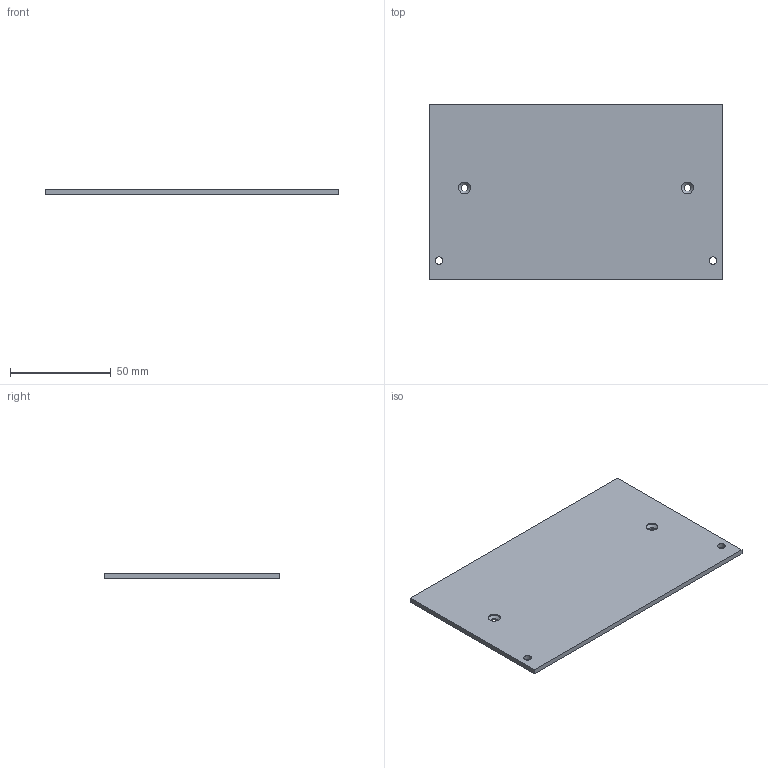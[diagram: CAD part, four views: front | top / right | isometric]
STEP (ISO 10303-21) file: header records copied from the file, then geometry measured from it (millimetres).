
FILE_DESCRIPTION(/* description */ ('BLIND PLATE 2U','CAx-IF Rec.Pracs.---Representation and Presentation of Product Manufacturing Information (PMI)---4.0---2014-10-13'),/* implementation_level */ '2;1');
FILE_NAME(/* name */ 'E:\CAMTEC_2020_Pack and Go\Subrack_2U\2021073001.stp',/* time_stamp */ '2020-09-21T14:56:11+02:00',/* author */ ('rryba'),/* organization */ (''),/* preprocessor_version */ 'ST-DEVELOPER v18.1',/* originating_system */ 'Autodesk Inventor 2021',/* authorisation */ '');
FILE_SCHEMA (('AP242_MANAGED_MODEL_BASED_3D_ENGINEERING_MIM_LF { 1 0 10303 442 1 1 4 }'));
Length unit declared in the file: millimetre
Products named in the file (1): 2021073001
Bounding box: 145.6 x 87 x 2.5 mm (x, y, z)
Volume: 31526.9 mm3; surface area: 26525.1 mm2
Topology: 1 solids, 1 shells, 14 faces, 40 edges, 32 vertices
Faces by surface type: cylinder 6, plane 6, cone 2
Full cylindrical faces by diameter (mm): 3.4 x2, 3.8 x2, 5.9 x2
Entity records: 516 total; most frequent: DIRECTION 82, CARTESIAN_POINT 79, ORIENTED_EDGE 64, EDGE_CURVE 32, AXIS2_PLACEMENT_3D 31, EDGE_LOOP 22, LINE 20, VECTOR 20
